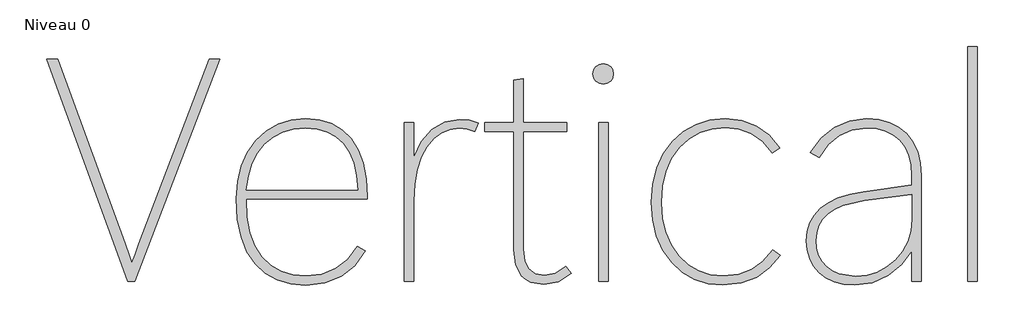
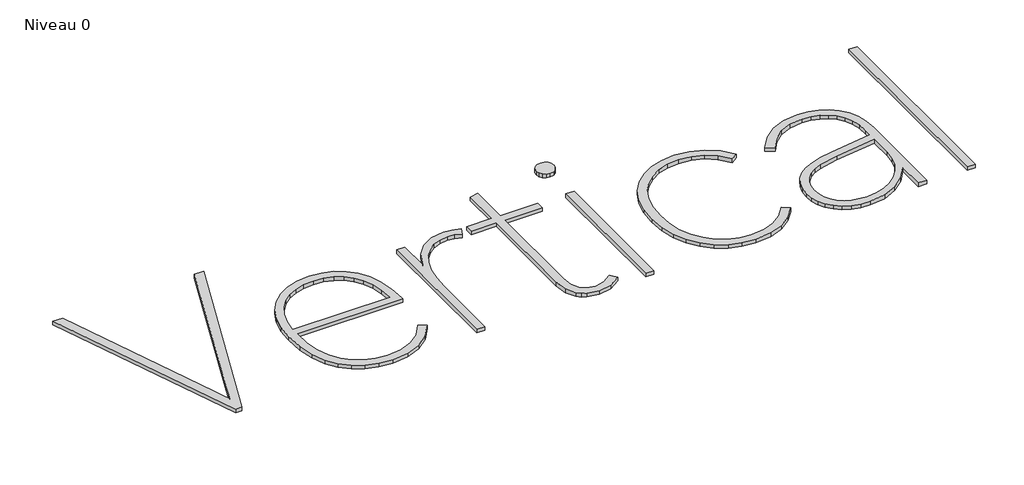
# One storey, part 9 of 11: 1 proxy.
"""IFC4 building model written with IfcOpenShell, lengths in millimetres."""

from ifc_helpers import new_model, si_unit, origin, origin_with_axes, place, context, project, spatial, polyline, outline, extrude, element, save

model = new_model("IFC4")

# Units and contexts
model_context = context("Model", 3, world=origin())
ifc_project = project(units=[si_unit("LENGTHUNIT", "METRE", prefix="MILLI")], contexts=[model_context])

# Site, building, storey
site = spatial("IfcSite", under=ifc_project)
building = spatial("IfcBuilding", under=site)
storey = spatial("IfcBuildingStorey", under=building, Name="Niveau 0", Elevation=0.0)

# Proxy
placement = place(None, origin())
element("IfcBuildingElementProxy", 1, Name="5 mm", ObjectType="5 mm", at=placement, inside=storey, context=model_context, shape_type="SweptSolid", body=[
    extrude(outline(polyline([(3322.3893458, 944.1953702), (3129.7547174, 439.16808), (3113.5265272, 439.16808), (2929.0059939, 944.1953702), (2954.2498454, 944.1953702), (3107.2155643, 523.7650346), (3115.1042679, 501.301012), (3121.9411443, 480.7903827), (3130.0552395, 500.3994458), (3138.4698566, 524.0655566), (3298.0470605, 944.1953702), (3322.3893458, 944.1953702)])), origin_with_axes(), (0.0, 0.0, 1.0), 10.0),
    extrude(outline(polyline([(3657.3211607, 626.2430506), (3381.89271, 626.2430506), (3383.7568858, 585.0104874), (3390.4012403, 549.3657559), (3401.8257735, 519.3088562), (3418.0304854, 494.8397881), (3438.1983318, 475.8552473), (3461.5122683, 462.2519292), (3487.9722949, 454.029834), (3517.5784116, 451.1889616), (3553.7913176, 455.4150528), (3585.7969149, 468.0933264), (3612.8063334, 489.2237824), (3634.0307026, 518.8064209), (3653.1138522, 508.5886715), (3628.9218279, 474.7611592), (3597.8177966, 450.212265), (3560.477933, 435.280076), (3517.5784116, 430.3026797), (3483.4081164, 433.4910308), (3452.8722596, 442.6053008), (3425.9708412, 457.6454898), (3402.7038613, 478.6115979), (3383.9353207, 505.8511035), (3370.5292203, 539.7114854), (3362.48556, 580.1927434), (3359.80434, 627.2948777), (3362.5841688, 666.2923082), (3370.9236555, 701.2420825), (3384.8227999, 732.1442005), (3404.2816021, 758.9986623), (3428.0416259, 780.7254668), (3454.8444355, 796.2446128), (3484.6900307, 805.5561004), (3517.5784116, 808.6599296), (3548.926617, 805.8190572), (3576.5558622, 797.2964399), (3600.4661471, 783.0920778), (3620.6574717, 763.2059709), (3636.6978357, 737.9292498), (3648.1552385, 707.5530454), (3655.0296802, 672.0773575), (3657.3211607, 631.5021863), (3657.3211607, 626.2430506)]), holes=[polyline([(3635.0825297, 646.5282884), (3632.518701, 679.3274518), (3626.1795642, 707.8535674), (3616.0651193, 732.1066353), (3602.1753662, 752.0866554), (3585.0080446, 767.6997145), (3565.0608941, 778.8518997), (3542.3339147, 785.5432107), (3516.8271065, 787.7736477), (3490.2356015, 785.4868628), (3466.0576641, 778.6265081), (3444.2932944, 767.1925836), (3424.9424924, 751.1850892), (3408.7096065, 730.9233297), (3396.2989853, 706.7266098), (3387.7106289, 678.5949293), (3382.9445371, 646.5282884), (3635.0825297, 646.5282884)])]), origin_with_axes(), (0.0, 0.0, 1.0), 10.0),
    extrude(outline(polyline([(3901.1947972, 779.6595526), (3883.7645188, 785.5948629), (3866.3342404, 787.1726037), (3844.7952622, 784.5195575), (3825.2566339, 776.5604191), (3807.7183554, 763.2951884), (3792.1804267, 744.7238653), (3779.4598922, 721.1563634), (3770.3737961, 692.9025959), (3764.9221385, 659.9625628), (3763.1049193, 622.3362641), (3763.1049193, 439.16808), (3741.6175933, 439.16808), (3741.6175933, 799.7945294), (3763.1049193, 799.7945294), (3763.1049193, 720.1561885), (3780.1783277, 757.045269), (3803.6002643, 784.4679053), (3833.1077722, 801.4849659), (3867.3860675, 807.1573194), (3888.1220884, 805.4293177), (3909.6094143, 798.7427023), (3901.1947972, 779.6595526)])), origin_with_axes(), (0.0, 0.0, 1.0), 10.0),
    extrude(outline(polyline([(4120.2753652, 456.7486194), (4090.5988137, 437.8908613), (4057.9170417, 432.105812), (4028.296838, 437.045643), (4016.6281306, 443.2204319), (4007.0536862, 451.8651362), (3994.2627168, 476.5267262), (3989.9990604, 510.9928478), (3989.9990604, 779.6595526), (3923.8842113, 779.6595526), (3923.8842113, 799.7945294), (3989.9990604, 799.7945294), (3989.9990604, 896.7128877), (4011.7869083, 900.4694132), (4011.7869083, 799.7945294), (4110.0576158, 799.7945294), (4110.0576158, 779.6595526), (4011.7869083, 779.6595526), (4011.7869083, 512.495458), (4014.7921288, 485.9931705), (4023.80779, 467.1917603), (4038.7211963, 455.9785316), (4059.4196519, 452.2407887), (4084.2127203, 456.9740109), (4107.6534395, 472.6762875), (4120.2753652, 456.7486194)])), origin_with_axes(), (0.0, 0.0, 1.0), 10.0),
    extrude(outline(polyline([(4192.8514382, 887.8474875), (4183.7418638, 889.4252282), (4176.2475954, 894.1584503), (4171.2326338, 901.4461098), (4169.56098, 910.6871626), (4171.2326338, 919.946998), (4176.2475954, 927.2910054), (4183.7418638, 932.0805754), (4192.8514382, 933.6770988), (4202.5057087, 932.0805754), (4209.8309335, 927.2910054), (4214.4514599, 919.946998), (4215.9916353, 910.6871626), (4214.4514599, 901.4461098), (4209.8309335, 894.1584503), (4202.5057087, 889.4252282), (4192.8514382, 887.8474875)])), origin_with_axes(), (0.0, 0.0, 1.0), 10.0),
    extrude(outline(polyline([(4204.1210147, 439.16808), (4182.1829057, 439.16808), (4182.1829057, 799.7945294), (4204.1210147, 799.7945294), (4204.1210147, 439.16808)])), origin_with_axes(), (0.0, 0.0, 1.0), 10.0),
    extrude(outline(polyline([(4594.7996683, 497.920139), (4570.1568609, 469.5208061), (4541.3067449, 448.3340022), (4506.6340144, 435.1485977), (4464.5233634, 430.7534628), (4430.7005468, 433.9559008), (4400.0050377, 443.5632148), (4372.4368361, 459.5754048), (4347.9959419, 481.9924708), (4327.9783566, 509.7531944), (4313.6800814, 541.796357), (4305.1011162, 578.1219588), (4302.2414612, 618.7299996), (4305.2091163, 660.1926499), (4314.1120818, 697.1286871), (4328.9503576, 729.538111), (4349.7239437, 757.4209216), (4375.0335343, 779.8379876), (4403.4798238, 795.8501776), (4435.0628121, 805.4574916), (4469.7824991, 808.6599296), (4507.2914064, 804.5089689), (4540.7808314, 792.0560868), (4569.8375562, 771.4139791), (4594.0483632, 742.6953416), (4576.9186068, 730.8247209), (4554.7551063, 757.1579648), (4529.1356023, 774.8512), (4500.5484431, 784.8811231), (4469.4819771, 788.2244308), (4439.3217729, 785.3929497), (4411.9507888, 776.8985064), (4387.369025, 762.7411008), (4365.5764814, 742.9207331), (4347.7282895, 718.151143), (4334.979581, 689.1460704), (4327.330356, 655.9055152), (4324.7806143, 618.4294775), (4327.2646168, 582.3245717), (4334.7166242, 550.0419305), (4347.1366367, 521.5815541), (4364.5246542, 496.9434424), (4385.7255451, 477.0573354), (4409.5841778, 462.8529733), (4436.1005522, 454.3303561), (4465.2746685, 451.4894836), (4500.4733126, 455.1896613), (4530.0371684, 466.2901942), (4555.2810199, 484.7910823), (4577.5196509, 510.6923258), (4594.7996683, 497.920139)])), origin_with_axes(), (0.0, 0.0, 1.0), 10.0),
    extrude(outline(polyline([(4915.0059032, 439.16808), (4893.0677942, 439.16808), (4893.0677942, 508.5886715), (4870.2469017, 477.447075), (4840.1007844, 452.5413108), (4803.8690958, 436.2004248), (4763.8433165, 430.7534628), (4739.1065959, 432.5143341), (4717.3375306, 437.7969481), (4698.5361204, 446.6013048), (4682.7023653, 458.9274042), (4670.1461788, 474.0051584), (4661.1774741, 491.0644799), (4655.7962513, 510.1053686), (4654.0025104, 531.1278246), (4655.9605993, 552.6198462), (4661.8348661, 572.0176048), (4671.6253107, 589.3211004), (4685.3319332, 604.5303331), (4703.2270816, 617.5138244), (4725.5831041, 628.140096), (4752.4000006, 636.4091478), (4783.6777712, 642.3209798), (4893.5185772, 657.7978649), (4893.5185772, 678.9846688), (4891.7905755, 704.1158245), (4886.6065703, 726.0163683), (4877.9665616, 744.6863001), (4865.8705494, 760.12562), (4850.8256648, 772.2216321), (4833.3390385, 780.8616408), (4813.4106706, 786.045646), (4791.0405612, 787.7736477), (4757.513571, 783.5475565), (4728.1563241, 770.8692829), (4703.194212, 749.9266532), (4682.8526264, 720.9074936), (4662.8679106, 732.1770701), (4687.4355875, 765.0278858), (4717.5629221, 789.0508664), (4752.3859136, 803.7576638), (4791.0405612, 808.6599296), (4817.9278926, 806.5562753), (4841.9414819, 800.2453125), (4863.0813293, 789.727041), (4881.3474346, 775.001461), (4896.0730146, 756.3597031), (4906.591286, 734.0928981), (4912.9022489, 708.201046), (4915.0059032, 678.6841468), (4915.0059032, 439.16808)]), holes=[polyline([(4893.0677942, 579.6621342), (4893.0677942, 637.0618441), (4786.3824695, 622.6367861), (4737.2471158, 611.2920791), (4718.3142272, 602.8586793), (4703.1378641, 592.584582), (4691.5020264, 580.3852654), (4683.1907136, 566.1762076), (4678.203926, 549.9574087), (4676.5416635, 531.7288686), (4678.0489694, 514.0591118), (4682.5708869, 498.3145742), (4690.1074163, 484.4952559), (4700.6585573, 472.601157), (4713.7641357, 463.0361039), (4728.963977, 456.2039232), (4765.6464487, 450.7381785), (4790.6883869, 453.0625287), (4813.9741495, 460.0355792), (4835.5037363, 471.65733), (4855.2771475, 487.9277811), (4871.8105554, 507.6072792), (4883.6201325, 529.4561707), (4890.7058788, 553.4744557), (4893.0677942, 579.6621342)])]), origin_with_axes(), (0.0, 0.0, 1.0), 10.0),
    extrude(outline(polyline([(5020.6394007, 439.16808), (5020.6394007, 973.0454862), (5042.4272487, 973.0454862), (5042.4272487, 439.16808), (5020.6394007, 439.16808)])), origin_with_axes(), (0.0, 0.0, 1.0), 10.0),
])

save(model, "model.ifc")
